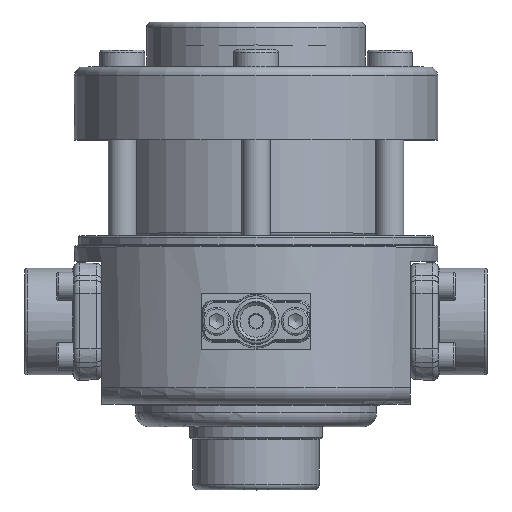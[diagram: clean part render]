
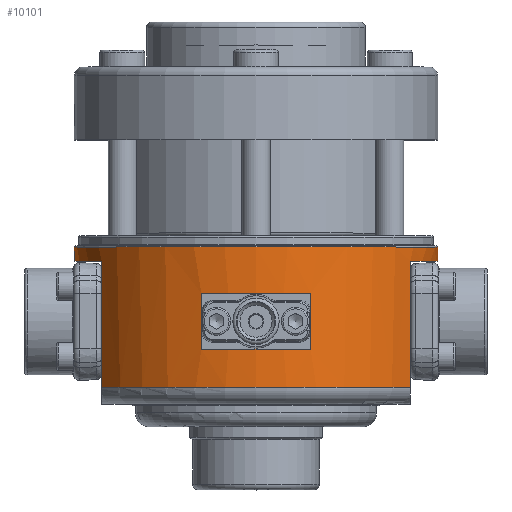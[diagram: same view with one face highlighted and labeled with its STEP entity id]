
A CAD part, top view. The second image highlights one B-rep face of the part: STEP entity #10101.
In plain terms, the highlighted cylindrical face has radius 64.75 mm (diameter 129.5 mm), a full revolution.
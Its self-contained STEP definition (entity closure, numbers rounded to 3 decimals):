
#1060=FACE_BOUND('',#1879,.T.);
#1061=FACE_BOUND('',#1880,.T.);
#1224=FACE_OUTER_BOUND('',#1878,.T.);
#1878=EDGE_LOOP('',(#7293,#7294,#7295,#7296,#7297,#7298,#7299,#7300,#7301,
#7302,#7303,#7304,#7305));
#1879=EDGE_LOOP('',(#7306,#7307,#7308,#7309));
#1880=EDGE_LOOP('',(#7310,#7311,#7312,#7313));
#2740=CIRCLE('',#11546,64.75);
#2747=CIRCLE('',#11559,64.75);
#2755=CIRCLE('',#11574,64.75);
#2756=CIRCLE('',#11576,64.75);
#2823=CIRCLE('',#11686,64.75);
#2824=CIRCLE('',#11687,64.75);
#2825=CIRCLE('',#11689,64.75);
#2826=CIRCLE('',#11690,64.75);
#2827=CIRCLE('',#11691,64.75);
#2828=CIRCLE('',#11692,64.75);
#2829=CIRCLE('',#11693,64.75);
#3385=LINE('',#16803,#3906);
#3387=LINE('',#16806,#3908);
#3394=LINE('',#16844,#3915);
#3396=LINE('',#16848,#3917);
#3418=LINE('',#16961,#3939);
#3420=LINE('',#16965,#3941);
#3429=LINE('',#17047,#3950);
#3431=LINE('',#17051,#3952);
#3442=LINE('',#17165,#3963);
#3906=VECTOR('',#12950,10.);
#3908=VECTOR('',#12952,10.);
#3915=VECTOR('',#12997,10.);
#3917=VECTOR('',#12999,10.);
#3939=VECTOR('',#13133,10.);
#3941=VECTOR('',#13135,10.);
#3950=VECTOR('',#13188,10.);
#3952=VECTOR('',#13190,10.);
#3963=VECTOR('',#13289,64.75);
#4466=VERTEX_POINT('',#16797);
#4467=VERTEX_POINT('',#16798);
#4468=VERTEX_POINT('',#16802);
#4469=VERTEX_POINT('',#16804);
#4480=VERTEX_POINT('',#16842);
#4481=VERTEX_POINT('',#16843);
#4482=VERTEX_POINT('',#16845);
#4483=VERTEX_POINT('',#16847);
#4517=VERTEX_POINT('',#16959);
#4518=VERTEX_POINT('',#16960);
#4519=VERTEX_POINT('',#16962);
#4520=VERTEX_POINT('',#16964);
#4534=VERTEX_POINT('',#17045);
#4535=VERTEX_POINT('',#17046);
#4536=VERTEX_POINT('',#17048);
#4537=VERTEX_POINT('',#17050);
#4558=VERTEX_POINT('',#17158);
#4559=VERTEX_POINT('',#17160);
#4560=VERTEX_POINT('',#17164);
#5452=EDGE_CURVE('',#4466,#4467,#2740,.T.);
#5454=EDGE_CURVE('',#4468,#4466,#3385,.T.);
#5456=EDGE_CURVE('',#4467,#4469,#3387,.T.);
#5467=EDGE_CURVE('',#4469,#4468,#2747,.T.);
#5474=EDGE_CURVE('',#4480,#4481,#3394,.T.);
#5476=EDGE_CURVE('',#4483,#4482,#3396,.T.);
#5484=EDGE_CURVE('',#4481,#4483,#2755,.T.);
#5485=EDGE_CURVE('',#4482,#4480,#2756,.T.);
#5531=EDGE_CURVE('',#4517,#4518,#3418,.T.);
#5533=EDGE_CURVE('',#4520,#4519,#3420,.T.);
#5557=EDGE_CURVE('',#4534,#4535,#3429,.T.);
#5559=EDGE_CURVE('',#4537,#4536,#3431,.T.);
#5597=EDGE_CURVE('',#4558,#4559,#2823,.T.);
#5598=EDGE_CURVE('',#4559,#4558,#2824,.T.);
#5599=EDGE_CURVE('',#4559,#4560,#3442,.T.);
#5600=EDGE_CURVE('',#4560,#4517,#2825,.T.);
#5601=EDGE_CURVE('',#4537,#4518,#2826,.T.);
#5602=EDGE_CURVE('',#4536,#4534,#2827,.T.);
#5603=EDGE_CURVE('',#4520,#4535,#2828,.T.);
#5604=EDGE_CURVE('',#4519,#4560,#2829,.T.);
#7293=ORIENTED_EDGE('',*,*,#5597,.F.);
#7294=ORIENTED_EDGE('',*,*,#5598,.F.);
#7295=ORIENTED_EDGE('',*,*,#5599,.T.);
#7296=ORIENTED_EDGE('',*,*,#5600,.T.);
#7297=ORIENTED_EDGE('',*,*,#5531,.T.);
#7298=ORIENTED_EDGE('',*,*,#5601,.F.);
#7299=ORIENTED_EDGE('',*,*,#5559,.T.);
#7300=ORIENTED_EDGE('',*,*,#5602,.T.);
#7301=ORIENTED_EDGE('',*,*,#5557,.T.);
#7302=ORIENTED_EDGE('',*,*,#5603,.F.);
#7303=ORIENTED_EDGE('',*,*,#5533,.T.);
#7304=ORIENTED_EDGE('',*,*,#5604,.T.);
#7305=ORIENTED_EDGE('',*,*,#5599,.F.);
#7306=ORIENTED_EDGE('',*,*,#5456,.T.);
#7307=ORIENTED_EDGE('',*,*,#5467,.T.);
#7308=ORIENTED_EDGE('',*,*,#5454,.T.);
#7309=ORIENTED_EDGE('',*,*,#5452,.T.);
#7310=ORIENTED_EDGE('',*,*,#5485,.T.);
#7311=ORIENTED_EDGE('',*,*,#5474,.T.);
#7312=ORIENTED_EDGE('',*,*,#5484,.T.);
#7313=ORIENTED_EDGE('',*,*,#5476,.T.);
#9886=CYLINDRICAL_SURFACE('',#11688,64.75);
#10101=ADVANCED_FACE('',(#1224,#1060,#1061),#9886,.T.);
#11546=AXIS2_PLACEMENT_3D('',#16799,#12945,#12946);
#11559=AXIS2_PLACEMENT_3D('',#16828,#12979,#12980);
#11574=AXIS2_PLACEMENT_3D('',#16863,#13018,#13019);
#11576=AXIS2_PLACEMENT_3D('',#16865,#13022,#13023);
#11686=AXIS2_PLACEMENT_3D('',#17161,#13283,#13284);
#11687=AXIS2_PLACEMENT_3D('',#17162,#13285,#13286);
#11688=AXIS2_PLACEMENT_3D('',#17163,#13287,#13288);
#11689=AXIS2_PLACEMENT_3D('',#17166,#13290,#13291);
#11690=AXIS2_PLACEMENT_3D('',#17167,#13292,#13293);
#11691=AXIS2_PLACEMENT_3D('',#17168,#13294,#13295);
#11692=AXIS2_PLACEMENT_3D('',#17169,#13296,#13297);
#11693=AXIS2_PLACEMENT_3D('',#17170,#13298,#13299);
#12945=DIRECTION('center_axis',(0.,-1.,0.));
#12946=DIRECTION('ref_axis',(-1.,0.,0.));
#12950=DIRECTION('',(0.,-1.,0.));
#12952=DIRECTION('',(0.,1.,0.));
#12979=DIRECTION('center_axis',(0.,1.,0.));
#12980=DIRECTION('ref_axis',(-1.,0.,0.));
#12997=DIRECTION('',(0.,1.,0.));
#12999=DIRECTION('',(0.,-1.,0.));
#13018=DIRECTION('center_axis',(0.,1.,0.));
#13019=DIRECTION('ref_axis',(-1.,0.,0.));
#13022=DIRECTION('center_axis',(0.,-1.,0.));
#13023=DIRECTION('ref_axis',(-1.,0.,0.));
#13133=DIRECTION('',(0.,-1.,0.));
#13135=DIRECTION('',(0.,1.,0.));
#13188=DIRECTION('',(0.,-1.,0.));
#13190=DIRECTION('',(0.,1.,0.));
#13283=DIRECTION('center_axis',(0.,1.,0.));
#13284=DIRECTION('ref_axis',(1.,0.,0.));
#13285=DIRECTION('center_axis',(0.,1.,0.));
#13286=DIRECTION('ref_axis',(1.,0.,0.));
#13287=DIRECTION('center_axis',(0.,1.,0.));
#13288=DIRECTION('ref_axis',(-1.,0.,0.));
#13289=DIRECTION('',(0.,-1.,0.));
#13290=DIRECTION('center_axis',(0.,1.,0.));
#13291=DIRECTION('ref_axis',(-1.,0.,0.));
#13292=DIRECTION('center_axis',(0.,-1.,0.));
#13293=DIRECTION('ref_axis',(1.,0.,0.));
#13294=DIRECTION('center_axis',(0.,1.,0.));
#13295=DIRECTION('ref_axis',(-1.,0.,0.));
#13296=DIRECTION('center_axis',(0.,-1.,0.));
#13297=DIRECTION('ref_axis',(1.,0.,0.));
#13298=DIRECTION('center_axis',(0.,1.,0.));
#13299=DIRECTION('ref_axis',(-1.,0.,0.));
#16797=CARTESIAN_POINT('',(-19.481,19.5,-61.75));
#16798=CARTESIAN_POINT('',(19.481,19.5,-61.75));
#16799=CARTESIAN_POINT('Origin',(0.,19.5,0.));
#16802=CARTESIAN_POINT('',(-19.481,39.5,-61.75));
#16803=CARTESIAN_POINT('',(-19.481,28.25,-61.75));
#16804=CARTESIAN_POINT('',(19.481,39.5,-61.75));
#16806=CARTESIAN_POINT('',(19.481,28.25,-61.75));
#16828=CARTESIAN_POINT('Origin',(0.,39.5,0.));
#16842=CARTESIAN_POINT('',(-19.481,19.5,61.75));
#16843=CARTESIAN_POINT('',(-19.481,39.5,61.75));
#16844=CARTESIAN_POINT('',(-19.481,28.25,61.75));
#16845=CARTESIAN_POINT('',(19.481,19.5,61.75));
#16847=CARTESIAN_POINT('',(19.481,39.5,61.75));
#16848=CARTESIAN_POINT('',(19.481,28.25,61.75));
#16863=CARTESIAN_POINT('Origin',(0.,39.5,0.));
#16865=CARTESIAN_POINT('Origin',(0.,19.5,0.));
#16959=CARTESIAN_POINT('',(55.,51.,-34.17));
#16960=CARTESIAN_POINT('',(55.,6.,-34.17));
#16961=CARTESIAN_POINT('',(55.,28.25,-34.17));
#16962=CARTESIAN_POINT('',(55.,51.,34.17));
#16964=CARTESIAN_POINT('',(55.,6.,34.17));
#16965=CARTESIAN_POINT('',(55.,28.25,34.17));
#17045=CARTESIAN_POINT('',(-55.,51.,34.17));
#17046=CARTESIAN_POINT('',(-55.,6.,34.17));
#17047=CARTESIAN_POINT('',(-55.,28.25,34.17));
#17048=CARTESIAN_POINT('',(-55.,51.,-34.17));
#17050=CARTESIAN_POINT('',(-55.,6.,-34.17));
#17051=CARTESIAN_POINT('',(-55.,28.25,-34.17));
#17158=CARTESIAN_POINT('',(0.,56.,-64.75));
#17160=CARTESIAN_POINT('',(64.75,56.,0.));
#17161=CARTESIAN_POINT('Origin',(0.,56.,0.));
#17162=CARTESIAN_POINT('Origin',(0.,56.,0.));
#17163=CARTESIAN_POINT('Origin',(0.,28.25,0.));
#17164=CARTESIAN_POINT('',(64.75,51.,0.));
#17165=CARTESIAN_POINT('',(64.75,28.25,0.));
#17166=CARTESIAN_POINT('Origin',(0.,51.,0.));
#17167=CARTESIAN_POINT('Origin',(0.,6.,
0.));
#17168=CARTESIAN_POINT('Origin',(0.,51.,0.));
#17169=CARTESIAN_POINT('Origin',(0.,6.,
0.));
#17170=CARTESIAN_POINT('Origin',(0.,51.,0.));
